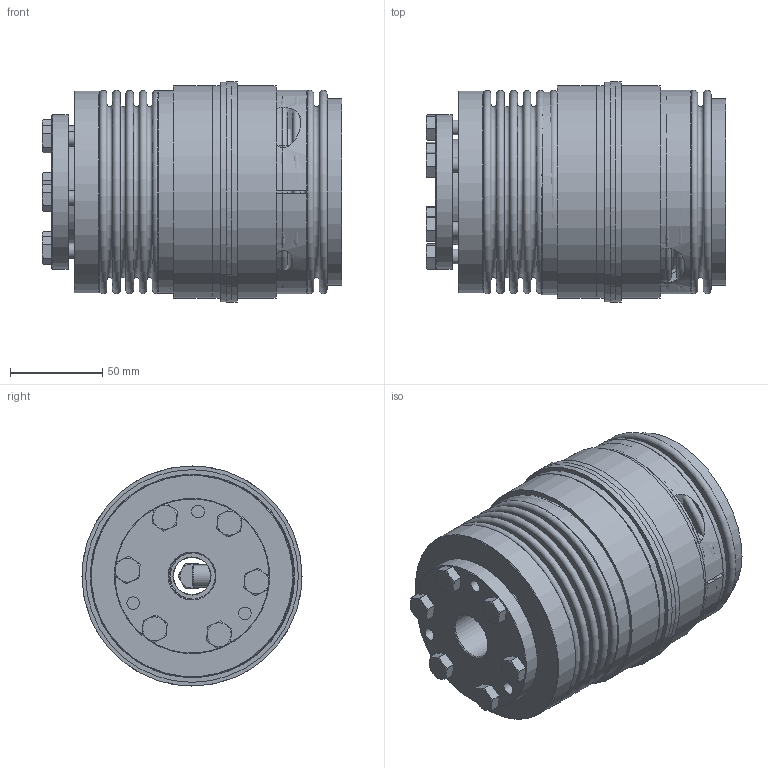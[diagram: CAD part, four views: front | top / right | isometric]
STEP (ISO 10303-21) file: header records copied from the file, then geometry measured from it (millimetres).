
FILE_DESCRIPTION( ( 'Unknown' ), '1' );
FILE_NAME( 'C:/Dokumente und Einstellungen/SKarpstein/Desktop/Korrigierte 3D Modelle/KBK-B-IK/KBK-BIK-300-143.stp', 'Unknown', ( 'Unknown' ), ( 'Unknown' ), 'XStep 1.0', 'Unknown', ' ' );
FILE_SCHEMA( ( 'automotive_design' ) );
Length unit declared in the file: millimetre
Products named in the file (13): Assem1; Assem2; Assem3; Zylinderschraube DIN 912_2_0; Hex Screw GradeC_ISO_ISO 4018 - M8 x 30-NN_2; BA300_Standard_2; KB300_Standard_2; Stellring 300; Druckring 300; Kupplung L-K-300 Grundkörper; Klemmnabe 300; Flansch BK300; BL300_Standard_0
Bounding box: 162.01 x 119 x 119 mm (x, y, z)
Volume: 1915860.3 mm3; surface area: 595115.4 mm2
Topology: 34 solids, 34 shells, 611 faces, 1260 edges, 806 vertices
Faces by surface type: plane 261, cone 158, cylinder 141, torus 51
Full cylindrical faces by diameter (mm): 3.242 x6, 5.2 x6, 6.8 x9, 8 x31, 8.5 x18, 10.106 x2, 12 x3, 12.5 x2, 18 x3, 19 x2, 20 x2, 25 x3, 52 x2, 55 x4, 57 x3, 60 x2, 70 x2, 76 x4, 83.5 x2, 84 x3, 88 x5, 90 x2, 98 x2, 98.5 x2, 99.8 x4, 101 x4, 109.5 x3, 115 x4, 119 x2
Entity records: 5238 total; most frequent: CARTESIAN_POINT 1238, DIRECTION 806, ORIENTED_EDGE 492, AXIS2_PLACEMENT_3D 384, EDGE_LOOP 380, FACE_OUTER_BOUND 263, EDGE_CURVE 246, VERTEX_POINT 220
